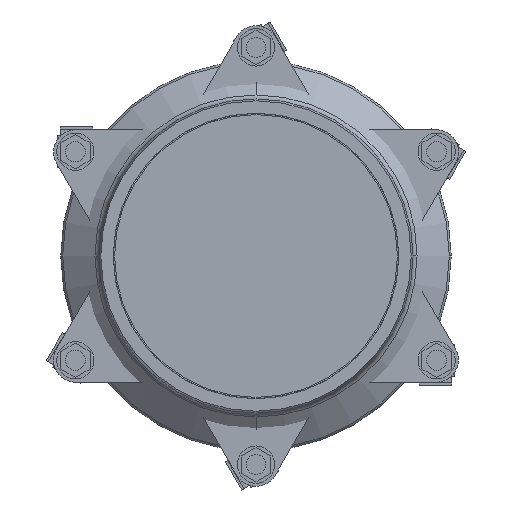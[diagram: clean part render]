
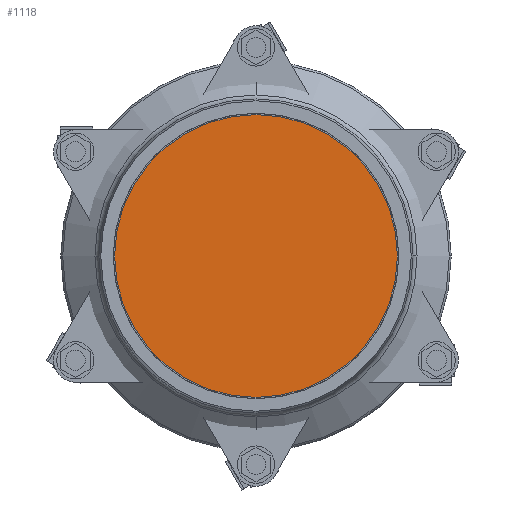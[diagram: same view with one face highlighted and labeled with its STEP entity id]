
A CAD part, left-side view. The second image highlights one B-rep face of the part: STEP entity #1118.
In plain terms, the highlighted planar face has unit normal (-1, 0, 0).
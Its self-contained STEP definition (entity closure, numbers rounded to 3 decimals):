
#1118=ADVANCED_FACE('',(#2316),#2317,.T.);
#2316=FACE_OUTER_BOUND('',#4032,.T.);
#2317=PLANE('',#4033);
#4032=EDGE_LOOP('',(#5600,#5601));
#4033=AXIS2_PLACEMENT_3D('',#5602,#5603,#5604);
#5600=ORIENTED_EDGE('',*,*,#9127,.T.);
#5601=ORIENTED_EDGE('',*,*,#9128,.T.);
#5602=CARTESIAN_POINT('',(-106.0,0.0,0.0));
#5603=DIRECTION('',(-1.0,0.0,0.));
#5604=DIRECTION('',(0.,0.0,1.0));
#9127=EDGE_CURVE('',#10684,#10685,#10686,.T.);
#9128=EDGE_CURVE('',#10685,#10684,#10687,.T.);
#10684=VERTEX_POINT('',#12837);
#10685=VERTEX_POINT('',#12838);
#10686=CIRCLE('',#12839,126.5);
#10687=CIRCLE('',#12840,126.5);
#12837=CARTESIAN_POINT('',(-106.0,0.0,-126.5));
#12838=CARTESIAN_POINT('',(-106.0,0.,126.5));
#12839=AXIS2_PLACEMENT_3D('',#15324,#15325,#15326);
#12840=AXIS2_PLACEMENT_3D('',#15327,#15328,#15329);
#15324=CARTESIAN_POINT('',(-106.0,0.0,0.0));
#15325=DIRECTION('',(-1.0,0.0,0.));
#15326=DIRECTION('',(0.,0.0,-1.0));
#15327=CARTESIAN_POINT('',(-106.0,0.0,0.0));
#15328=DIRECTION('',(-1.0,0.0,0.));
#15329=DIRECTION('',(0.,0.0,-1.0));
